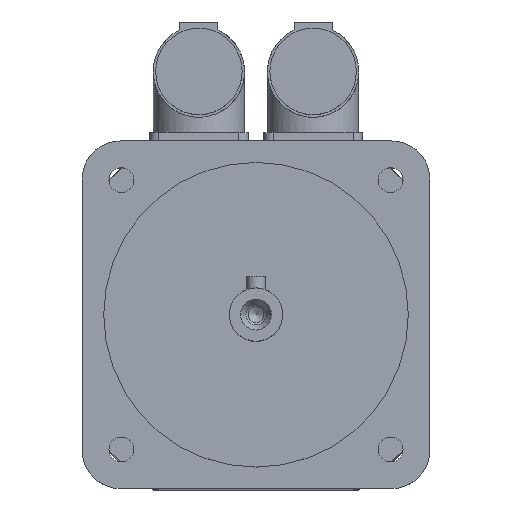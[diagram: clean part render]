
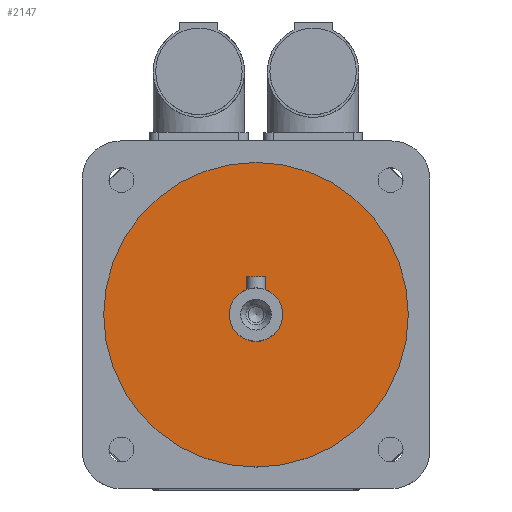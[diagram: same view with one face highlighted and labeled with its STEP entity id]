
A CAD part, top view. The second image highlights one B-rep face of the part: STEP entity #2147.
In plain terms, the highlighted planar face has unit normal (0, 0, 1).
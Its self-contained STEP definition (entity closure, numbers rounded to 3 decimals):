
#364=PLANE('',#2300);
#497=FACE_BOUND('',#679,.T.);
#533=FACE_OUTER_BOUND('',#678,.T.);
#678=EDGE_LOOP('',(#1534));
#679=EDGE_LOOP('',(#1535));
#830=CIRCLE('',#2299,7.);
#831=CIRCLE('',#2301,40.);
#978=VERTEX_POINT('',#3374);
#979=VERTEX_POINT('',#3377);
#1194=EDGE_CURVE('',#978,#978,#830,.T.);
#1195=EDGE_CURVE('',#979,#979,#831,.T.);
#1534=ORIENTED_EDGE('',*,*,#1195,.F.);
#1535=ORIENTED_EDGE('',*,*,#1194,.T.);
#2147=ADVANCED_FACE('',(#533,#497),#364,.T.);
#2299=AXIS2_PLACEMENT_3D('',#3375,#2624,#2625);
#2300=AXIS2_PLACEMENT_3D('',#3376,#2626,#2627);
#2301=AXIS2_PLACEMENT_3D('',#3378,#2628,#2629);
#2624=DIRECTION('center_axis',(0.,0.,-1.));
#2625=DIRECTION('ref_axis',(1.,0.,0.));
#2626=DIRECTION('center_axis',(0.,0.,1.));
#2627=DIRECTION('ref_axis',(1.,0.,0.));
#2628=DIRECTION('center_axis',(0.,0.,-1.));
#2629=DIRECTION('ref_axis',(1.,0.,0.));
#3374=CARTESIAN_POINT('',(0.,7.,176.));
#3375=CARTESIAN_POINT('Origin',(0.,0.,176.));
#3376=CARTESIAN_POINT('Origin',(0.,40.,176.));
#3377=CARTESIAN_POINT('',(0.,40.,176.));
#3378=CARTESIAN_POINT('Origin',(0.,0.,176.));
